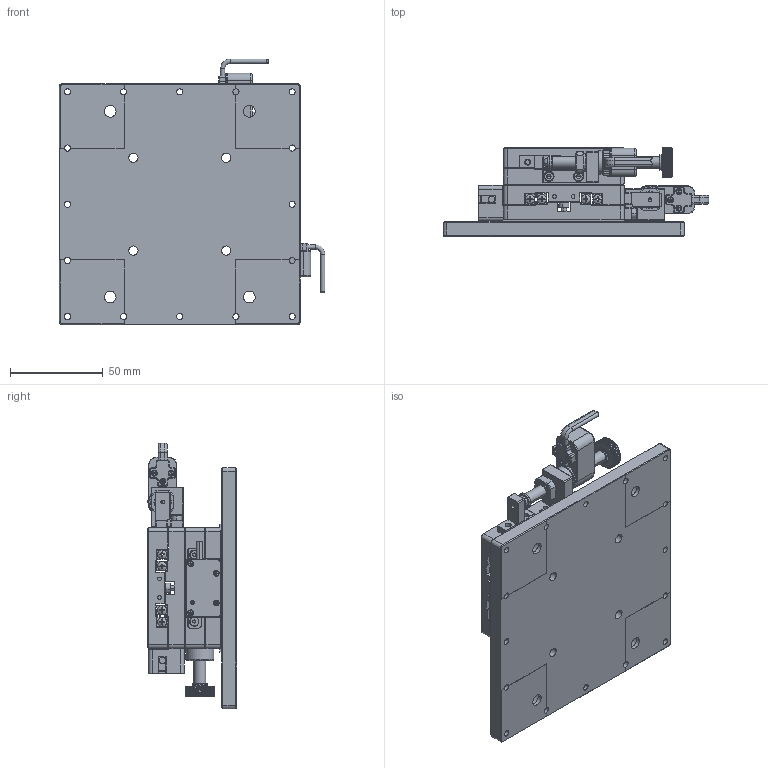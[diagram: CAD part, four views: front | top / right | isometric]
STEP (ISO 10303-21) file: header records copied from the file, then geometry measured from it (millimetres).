
FILE_DESCRIPTION (( 'STEP AP203' ), '1' );
FILE_NAME ('N81E26XY65(媼峎).STEP', '2025-09-30T01:59:53', ( 'Windows User' ), ( 'P R C' ), 'SwSTEP 2.0', 'SolidWorks 2016', '' );
FILE_SCHEMA (( 'CONFIG_CONTROL_DESIGN' ));
Length unit declared in the file: millimetre
Products named in the file (3): N81E26XY65(媼峎); X65一维宏动台(标准版外形尺寸图）; 数模-XYZ65N81E26台体固定板A1(XYZ65N81E26-01R1)-24.12.03(图纸版本A0).dwg
Assembly tree (3 placements, depth 2):
  N81E26XY65(媼峎)
    X65一维宏动台(标准版外形尺寸图）  x2
    数模-XYZ65N81E26台体固定板A1(XYZ65N81E26-01R1)-24.12.03(图纸版本A0).dwg
Bounding box: 143.15 x 48 x 143.15 mm (x, y, z)
Volume: 128697.7 mm3; surface area: 121147.9 mm2
Topology: 1 solids, 141 shells, 2706 faces, 8492 edges, 5666 vertices
Faces by surface type: plane 1390, cylinder 908, cone 256, torus 114, sphere 36, bspline 2
Entity records: 51782 total; most frequent: CARTESIAN_POINT 12564, DIRECTION 8236, ORIENTED_EDGE 7638, EDGE_CURVE 4365, AXIS2_PLACEMENT_3D 2976, VERTEX_POINT 2938, LINE 2284, VECTOR 2284
